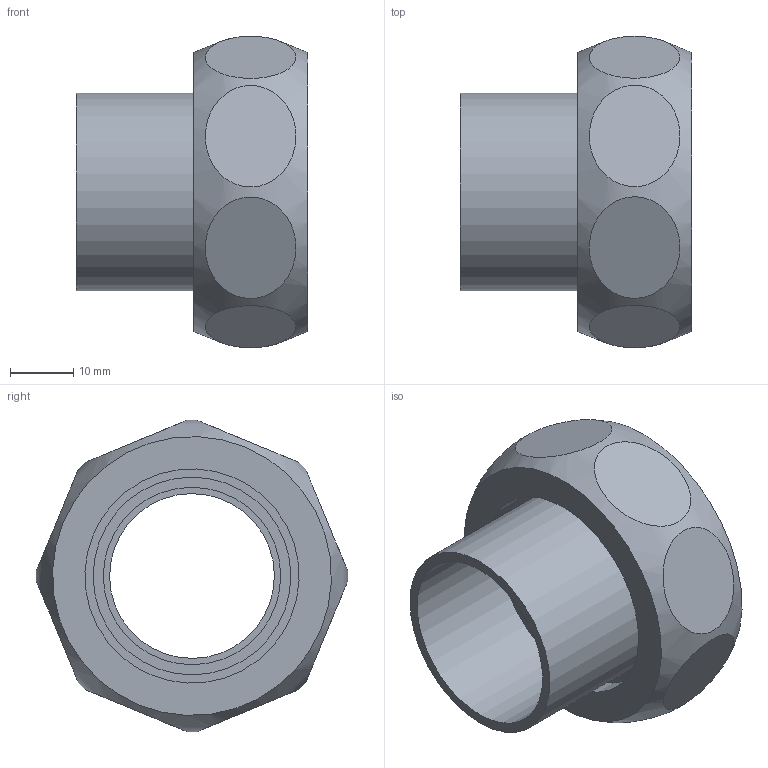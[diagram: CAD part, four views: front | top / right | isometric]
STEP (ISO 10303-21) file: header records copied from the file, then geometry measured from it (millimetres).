
FILE_DESCRIPTION((''),'2;1');
FILE_NAME('\\lg50001\SANHA_Legnica\Engineering\Public\RYSUNKI\SANHA POLSKA\4359g\step\14359g_28-114(1).stp','2012-06-21T14:19:29',('pajchrowski'),(''),'Autodesk Inventor 2009','Autodesk Inventor 2009','');
FILE_SCHEMA(('AUTOMOTIVE_DESIGN { 1 0 10303 214 1 1 1 1 }'));
Length unit declared in the file: millimetre
Products named in the file (4): 14359g_28-114(1); 14374_114_338(1); 1DCU114; 14372_28-114(1)
Assembly tree (3 placements, depth 2):
  14359g_28-114(1)
    14374_114_338(1)
    1DCU114
    14372_28-114(1)
Bounding box: 36.5 x 49.15 x 49.15 mm (x, y, z)
Volume: 17332.9 mm3; surface area: 13736.1 mm2
Topology: 3 solids, 3 shells, 27 faces, 39 edges, 28 vertices
Faces by surface type: plane 17, cylinder 8, cone 1, bspline 1
Full cylindrical faces by diameter (mm): 26 x1, 27 x1, 28 x1, 31.2 x1, 33.8 x1, 38 x1, 38.5 x1, 38.952 x1
Entity records: 2000 total; most frequent: CARTESIAN_POINT 1434, DIRECTION 104, ORIENTED_EDGE 54, EDGE_LOOP 54, AXIS2_PLACEMENT_3D 52, VERTEX_POINT 27, EDGE_CURVE 27, FACE_OUTER_BOUND 27
